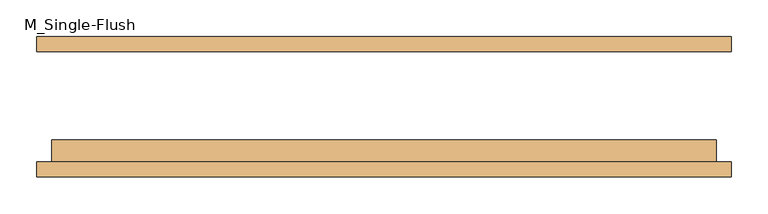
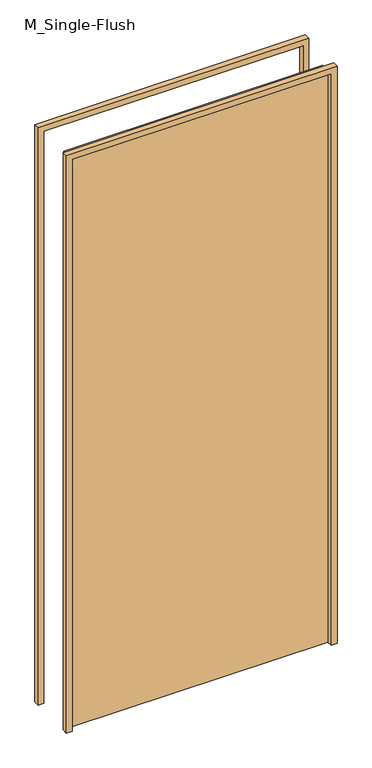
"""IFC4 building model written with IfcOpenShell, lengths in millimetres: door geometry, M_Single-Flush : 90x210 室內."""

from ifc_helpers import new_model, si_unit, frame, origin, origin_with_axes, place, context, project, spatial, polyline, outline, extrude, source, transform, mapped, element, save


def m_single_flush_02f8d604(model_context):
    return source(origin(), model_context, "Body", "SweptSolid", [
        extrude(outline(polyline([(2120.0, -470.0), (0.0, -470.0), (0.0, -450.0), (2100.0, -450.0), (2100.0, 450.0), (0.0, 450.0), (0.0, 470.0), (2120.0, 470.0), (2120.0, -470.0)])), frame((0.0, -95.0, 0.0), z_axis=(0.0, 1.0, 0.0), x_axis=(0.0, 0.0, 1.0)), (0.0, 0.0, 1.0), 20.0),
        extrude(outline(polyline([(2120.0, 470.0), (2120.0, -470.0), (0.0, -470.0), (0.0, -450.0), (2100.0, -450.0), (2100.0, 450.0), (0.0, 450.0), (0.0, 470.0), (2120.0, 470.0)])), frame((0.0, 75.0, 0.0), z_axis=(0.0, 1.0, 0.0), x_axis=(0.0, 0.0, 1.0)), (0.0, 0.0, 1.0), 20.0),
        extrude(outline(polyline([(450.0, -45.0), (450.0, -75.0), (-450.0, -75.0), (-450.0, -45.0), (450.0, -45.0)])), origin_with_axes(), (0.0, 0.0, 1.0), 2100.0),
    ])


if __name__ == "__main__":
    model = new_model("IFC4")
    model_context = context("Model", 3, world=origin())
    ifc_project = project(units=[si_unit("LENGTHUNIT", "METRE", prefix="MILLI")], contexts=[model_context])
    site = spatial("IfcSite", under=ifc_project)
    building = spatial("IfcBuilding", under=site)
    placement = place(None, origin())
    m_single_flush_shape = m_single_flush_02f8d604(model_context)
    element("IfcDoor", 1, ObjectType="M_Single-Flush : 90x210 室內", at=placement, inside=building, context=model_context, shape_type="MappedRepresentation", body=[
        mapped(m_single_flush_shape, transform((0.0, 0.0, 0.0), x_axis=(1.0, 0.0, 0.0), y_axis=(0.0, 1.0, 0.0), z_axis=(0.0, 0.0, 1.0))),
    ])
    save(model, "model.ifc")
